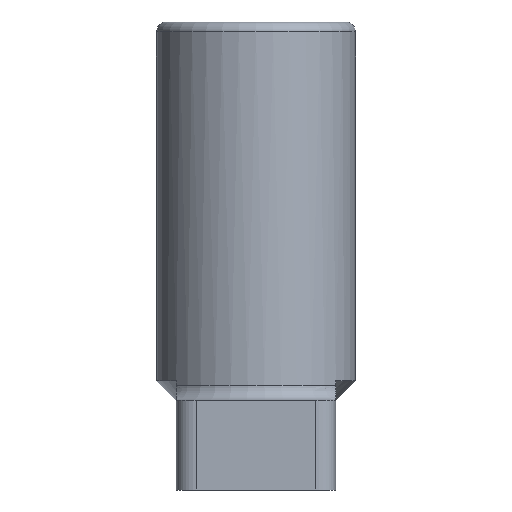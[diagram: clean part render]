
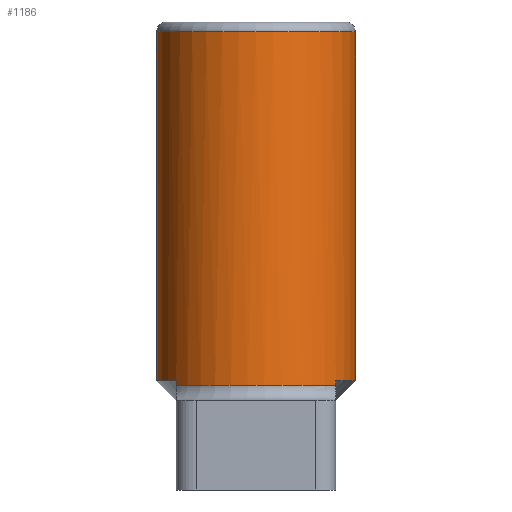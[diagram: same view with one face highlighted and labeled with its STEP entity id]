
A CAD part, left-side view. The second image highlights one B-rep face of the part: STEP entity #1186.
In plain terms, the highlighted cylindrical face has radius 10 mm (diameter 20 mm), a full revolution.
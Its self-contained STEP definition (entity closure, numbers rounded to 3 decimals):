
#127=LINE('',#1709,#191);
#128=LINE('',#1713,#192);
#129=LINE('',#1717,#193);
#130=LINE('',#1720,#194);
#131=LINE('',#1722,#195);
#191=VECTOR('',#1406,10.);
#192=VECTOR('',#1409,10.);
#193=VECTOR('',#1412,10.);
#194=VECTOR('',#1415,10.);
#195=VECTOR('',#1416,10.);
#255=CYLINDRICAL_SURFACE('',#1282,10.);
#301=FACE_OUTER_BOUND('',#374,.T.);
#374=EDGE_LOOP('',(#821,#822,#823,#824,#825,#826,#827,#828,#829,#830,#831,
#832,#833));
#464=CIRCLE('',#1281,10.);
#465=CIRCLE('',#1283,10.);
#466=CIRCLE('',#1284,10.);
#467=CIRCLE('',#1285,10.);
#468=CIRCLE('',#1286,10.);
#469=CIRCLE('',#1287,10.);
#470=CIRCLE('',#1288,10.);
#515=VERTEX_POINT('',#1692);
#518=VERTEX_POINT('',#1699);
#519=VERTEX_POINT('',#1705);
#520=VERTEX_POINT('',#1706);
#521=VERTEX_POINT('',#1708);
#522=VERTEX_POINT('',#1710);
#523=VERTEX_POINT('',#1712);
#524=VERTEX_POINT('',#1714);
#525=VERTEX_POINT('',#1716);
#526=VERTEX_POINT('',#1718);
#527=VERTEX_POINT('',#1721);
#637=EDGE_CURVE('',#518,#515,#464,.T.);
#638=EDGE_CURVE('',#519,#520,#465,.T.);
#639=EDGE_CURVE('',#519,#521,#127,.T.);
#640=EDGE_CURVE('',#522,#521,#466,.T.);
#641=EDGE_CURVE('',#523,#522,#128,.T.);
#642=EDGE_CURVE('',#524,#523,#467,.T.);
#643=EDGE_CURVE('',#525,#524,#129,.T.);
#644=EDGE_CURVE('',#526,#525,#468,.T.);
#645=EDGE_CURVE('',#515,#526,#130,.T.);
#646=EDGE_CURVE('',#527,#518,#131,.T.);
#647=EDGE_CURVE('',#521,#527,#469,.T.);
#648=EDGE_CURVE('',#520,#519,#470,.T.);
#821=ORIENTED_EDGE('',*,*,#638,.F.);
#822=ORIENTED_EDGE('',*,*,#639,.T.);
#823=ORIENTED_EDGE('',*,*,#640,.F.);
#824=ORIENTED_EDGE('',*,*,#641,.F.);
#825=ORIENTED_EDGE('',*,*,#642,.F.);
#826=ORIENTED_EDGE('',*,*,#643,.F.);
#827=ORIENTED_EDGE('',*,*,#644,.F.);
#828=ORIENTED_EDGE('',*,*,#645,.F.);
#829=ORIENTED_EDGE('',*,*,#637,.F.);
#830=ORIENTED_EDGE('',*,*,#646,.F.);
#831=ORIENTED_EDGE('',*,*,#647,.F.);
#832=ORIENTED_EDGE('',*,*,#639,.F.);
#833=ORIENTED_EDGE('',*,*,#648,.F.);
#1186=ADVANCED_FACE('',(#301),#255,.T.);
#1281=AXIS2_PLACEMENT_3D('',#1703,#1400,#1401);
#1282=AXIS2_PLACEMENT_3D('',#1704,#1402,#1403);
#1283=AXIS2_PLACEMENT_3D('',#1707,#1404,#1405);
#1284=AXIS2_PLACEMENT_3D('',#1711,#1407,#1408);
#1285=AXIS2_PLACEMENT_3D('',#1715,#1410,#1411);
#1286=AXIS2_PLACEMENT_3D('',#1719,#1413,#1414);
#1287=AXIS2_PLACEMENT_3D('',#1723,#1417,#1418);
#1288=AXIS2_PLACEMENT_3D('',#1724,#1419,#1420);
#1400=DIRECTION('center_axis',(0.,0.,-1.));
#1401=DIRECTION('ref_axis',(-1.,0.,0.));
#1402=DIRECTION('center_axis',(0.,0.,1.));
#1403=DIRECTION('ref_axis',(-1.,0.,0.));
#1404=DIRECTION('center_axis',(0.,0.,1.));
#1405=DIRECTION('ref_axis',(-1.,0.,0.));
#1406=DIRECTION('',(0.,0.,-1.));
#1407=DIRECTION('center_axis',(0.,0.,-1.));
#1408=DIRECTION('ref_axis',(1.,0.,0.));
#1409=DIRECTION('',(0.,0.,-1.));
#1410=DIRECTION('center_axis',(0.,0.,-1.));
#1411=DIRECTION('ref_axis',(-1.,0.,0.));
#1412=DIRECTION('',(0.,0.,1.));
#1413=DIRECTION('center_axis',(0.,0.,-1.));
#1414=DIRECTION('ref_axis',(-1.,0.,0.));
#1415=DIRECTION('',(0.,0.,-1.));
#1416=DIRECTION('',(0.,0.,1.));
#1417=DIRECTION('center_axis',(0.,0.,-1.));
#1418=DIRECTION('ref_axis',(1.,0.,0.));
#1419=DIRECTION('center_axis',(0.,0.,1.));
#1420=DIRECTION('ref_axis',(-1.,0.,0.));
#1692=CARTESIAN_POINT('',(-6.,-8.,10.99));
#1699=CARTESIAN_POINT('',(6.,-8.,10.99));
#1703=CARTESIAN_POINT('Origin',(0.,0.,10.99));
#1704=CARTESIAN_POINT('Origin',(0.,0.,9.));
#1705=CARTESIAN_POINT('',(10.,0.,46.));
#1706=CARTESIAN_POINT('',(-10.,0.,46.));
#1707=CARTESIAN_POINT('Origin',(0.,0.,46.));
#1708=CARTESIAN_POINT('',(10.,0.,10.5));
#1709=CARTESIAN_POINT('',(10.,0.,9.));
#1710=CARTESIAN_POINT('',(6.,8.,10.5));
#1711=CARTESIAN_POINT('Origin',(0.,0.,10.5));
#1712=CARTESIAN_POINT('',(6.,8.,10.99));
#1713=CARTESIAN_POINT('',(6.,8.,9.));
#1714=CARTESIAN_POINT('',(-6.,8.,10.99));
#1715=CARTESIAN_POINT('Origin',(0.,0.,10.99));
#1716=CARTESIAN_POINT('',(-6.,8.,10.5));
#1717=CARTESIAN_POINT('',(-6.,8.,9.));
#1718=CARTESIAN_POINT('',(-6.,-8.,10.5));
#1719=CARTESIAN_POINT('Origin',(0.,0.,10.5));
#1720=CARTESIAN_POINT('',(-6.,-8.,9.));
#1721=CARTESIAN_POINT('',(6.,-8.,10.5));
#1722=CARTESIAN_POINT('',(6.,-8.,9.));
#1723=CARTESIAN_POINT('Origin',(0.,0.,10.5));
#1724=CARTESIAN_POINT('Origin',(0.,0.,46.));
